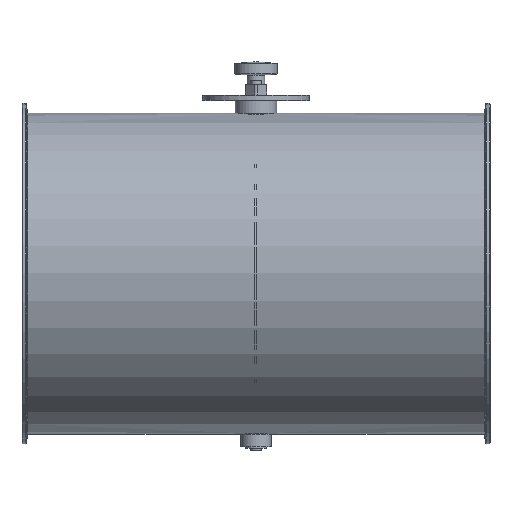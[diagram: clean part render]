
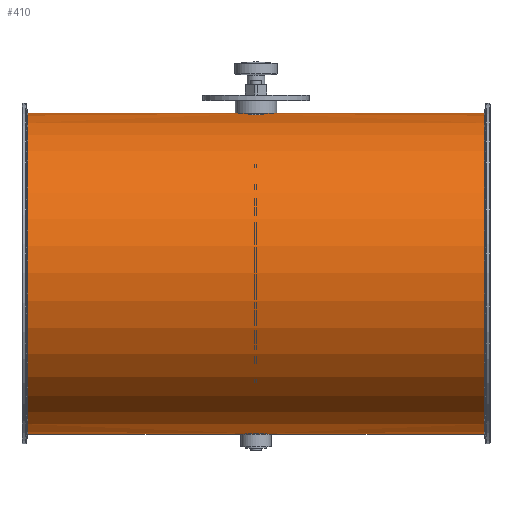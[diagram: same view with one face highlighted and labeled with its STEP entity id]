
A CAD part, top view. The second image highlights one B-rep face of the part: STEP entity #410.
In plain terms, the highlighted cylindrical face has radius 150.8 mm (diameter 301.6 mm), a full revolution.
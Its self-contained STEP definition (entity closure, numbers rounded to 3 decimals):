
#187=B_SPLINE_CURVE_WITH_KNOTS('',3,(#1798,#1799,#1800,#1801,#1802,#1803,
#1804,#1805,#1806,#1807,#1808,#1809,#1810,#1811,#1812,#1813,#1814,#1815),
 .UNSPECIFIED.,.T.,.F.,(2,2,2,2,2,2,2,2,2,2,2),(-0.125,0.,0.125,0.25,0.375,
0.5,0.625,0.75,0.875,1.,1.125),.UNSPECIFIED.);
#188=B_SPLINE_CURVE_WITH_KNOTS('',3,(#1817,#1818,#1819,#1820,#1821,#1822,
#1823,#1824,#1825,#1826,#1827,#1828,#1829,#1830,#1831,#1832,#1833,#1834),
 .UNSPECIFIED.,.T.,.F.,(2,2,2,2,2,2,2,2,2,2,2),(-0.125,0.,0.125,0.25,0.375,
0.5,0.625,0.75,0.875,1.,1.125),.UNSPECIFIED.);
#225=CYLINDRICAL_SURFACE('',#1266,150.8);
#280=FACE_BOUND('',#571,.T.);
#281=FACE_BOUND('',#572,.T.);
#282=FACE_BOUND('',#573,.T.);
#283=FACE_BOUND('',#574,.T.);
#410=ADVANCED_FACE('',(#280,#281,#282,#283),#225,.T.);
#571=EDGE_LOOP('',(#733));
#572=EDGE_LOOP('',(#734));
#573=EDGE_LOOP('',(#735));
#574=EDGE_LOOP('',(#736));
#733=ORIENTED_EDGE('',*,*,#1055,.T.);
#734=ORIENTED_EDGE('',*,*,#1056,.F.);
#735=ORIENTED_EDGE('',*,*,#1057,.F.);
#736=ORIENTED_EDGE('',*,*,#1058,.T.);
#953=VERTEX_POINT('',#1797);
#954=VERTEX_POINT('',#1816);
#955=VERTEX_POINT('',#1835);
#956=VERTEX_POINT('',#1837);
#1055=EDGE_CURVE('',#953,#953,#1173,.T.);
#1056=EDGE_CURVE('',#954,#954,#187,.T.);
#1057=EDGE_CURVE('',#955,#955,#188,.T.);
#1058=EDGE_CURVE('',#956,#956,#1174,.T.);
#1173=CIRCLE('',#1264,150.8);
#1174=CIRCLE('',#1265,150.8);
#1264=AXIS2_PLACEMENT_3D('',#1796,#1457,#1458);
#1265=AXIS2_PLACEMENT_3D('',#1836,#1459,#1460);
#1266=AXIS2_PLACEMENT_3D('',#1838,#1461,#1462);
#1457=DIRECTION('',(-1.,0.,0.));
#1458=DIRECTION('',(0.,0.,-1.));
#1459=DIRECTION('',(1.,0.,0.));
#1460=DIRECTION('',(0.,0.,1.));
#1461=DIRECTION('',(1.,0.,0.));
#1462=DIRECTION('',(0.,0.,-1.));
#1796=CARTESIAN_POINT('',(214.804,-51.,125.));
#1797=CARTESIAN_POINT('',(214.804,-51.,-25.8));
#1798=CARTESIAN_POINT('',(2.643,99.468,115.));
#1799=CARTESIAN_POINT('',(-2.643,99.468,115.));
#1800=CARTESIAN_POINT('',(-5.227,99.548,116.085));
#1801=CARTESIAN_POINT('',(-8.916,99.721,119.774));
#1802=CARTESIAN_POINT('',(-9.999,99.8,122.385));
#1803=CARTESIAN_POINT('',(-10.001,99.8,127.604));
#1804=CARTESIAN_POINT('',(-8.941,99.722,130.2));
#1805=CARTESIAN_POINT('',(-5.208,99.547,133.936));
#1806=CARTESIAN_POINT('',(-2.614,99.468,134.999));
#1807=CARTESIAN_POINT('',(2.607,99.468,135.001));
#1808=CARTESIAN_POINT('',(5.219,99.547,133.92));
#1809=CARTESIAN_POINT('',(8.91,99.72,130.236));
#1810=CARTESIAN_POINT('',(9.997,99.8,127.65));
#1811=CARTESIAN_POINT('',(10.003,99.8,122.37));
#1812=CARTESIAN_POINT('',(8.921,99.721,119.781));
#1813=CARTESIAN_POINT('',(5.233,99.548,116.088));
#1814=CARTESIAN_POINT('',(2.643,99.468,115.));
#1815=CARTESIAN_POINT('',(-2.643,99.468,115.));
#1816=CARTESIAN_POINT('',(0.,99.468,115.));
#1817=CARTESIAN_POINT('',(-2.643,-201.468,115.));
#1818=CARTESIAN_POINT('',(2.643,-201.468,115.));
#1819=CARTESIAN_POINT('',(5.227,-201.548,116.085));
#1820=CARTESIAN_POINT('',(8.916,-201.721,119.774));
#1821=CARTESIAN_POINT('',(9.999,-201.8,122.385));
#1822=CARTESIAN_POINT('',(10.001,-201.8,127.604));
#1823=CARTESIAN_POINT('',(8.941,-201.722,130.2));
#1824=CARTESIAN_POINT('',(5.208,-201.547,133.936));
#1825=CARTESIAN_POINT('',(2.614,-201.468,134.999));
#1826=CARTESIAN_POINT('',(-2.607,-201.468,135.001));
#1827=CARTESIAN_POINT('',(-5.219,-201.547,133.92));
#1828=CARTESIAN_POINT('',(-8.91,-201.72,130.236));
#1829=CARTESIAN_POINT('',(-9.997,-201.8,127.65));
#1830=CARTESIAN_POINT('',(-10.003,-201.8,122.37));
#1831=CARTESIAN_POINT('',(-8.921,-201.721,119.781));
#1832=CARTESIAN_POINT('',(-5.233,-201.548,116.088));
#1833=CARTESIAN_POINT('',(-2.643,-201.468,115.));
#1834=CARTESIAN_POINT('',(2.643,-201.468,115.));
#1835=CARTESIAN_POINT('',(0.,-201.468,115.));
#1836=CARTESIAN_POINT('',(-214.804,-51.,125.));
#1837=CARTESIAN_POINT('',(-214.804,-51.,275.8));
#1838=CARTESIAN_POINT('',(-220.,-51.,125.));
